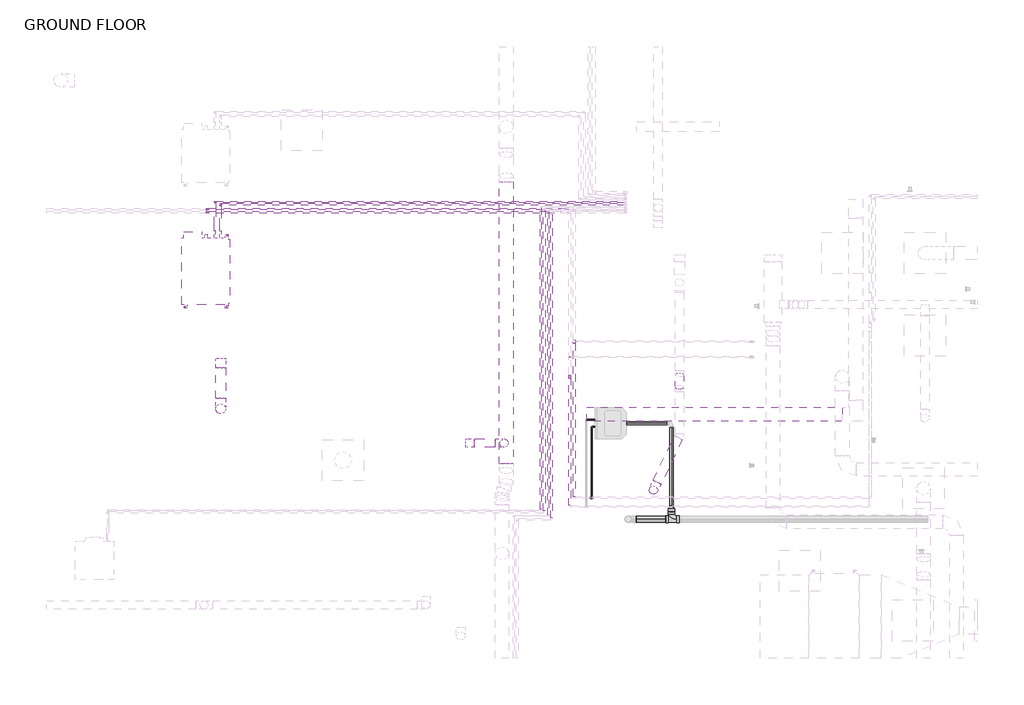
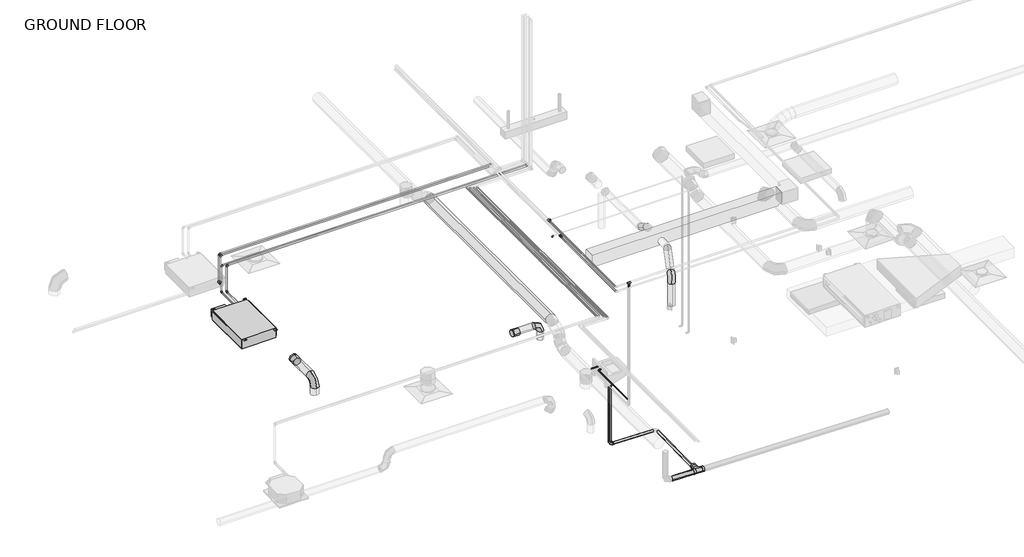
# One storey, part 12 of 21: 24 pipe segments, 22 pipe fittings, 9 duct segments, 5 duct fittings, 1 proxy.
"""IFC4 building model written with IfcOpenShell, lengths in millimetres."""

from ifc_helpers import new_model, si_unit, point, frame, frame_2d, origin, place, context, project, spatial, polyline, circle_curve, trimmed, segment, composite_curve, outline, extrude, transform, mapped, element, save
from components import mechanical_equipment_be926906, round_elbow_1_d_b37ad80b, round_elbow_1_d_c80420c1, round_takeoff_standard_d0146e83, round_takeoff_standard_272bb003, bend_pvc_sch_40_dwv_standard_4388fb5c, elbow_generic_standard_c06ac706, elbow_generic_standard_738589b0, elbow_generic_standard_a088f956, elbow_generic_standard_908d6d78, elbow_generic_standard_760b037f, reducer_pvc_sch_40_dwv_standard_deb4f40a, tee_generic_standard_d345b28c, tee_sanitary_pvc_sch_40_dwv_standard_5aefe654, transition_generic_standard_19d9bb8b, transition_generic_standard_43f54093

model = new_model("IFC4")

# Units and contexts
model_context = context("Model", 3, world=origin())
ifc_project = project(units=[si_unit("LENGTHUNIT", "METRE", prefix="MILLI")], contexts=[model_context])

# Site, building, storey
site = spatial("IfcSite", under=ifc_project)
building = spatial("IfcBuilding", under=site)
storey = spatial("IfcBuildingStorey", under=building, Name="GROUND FLOOR", Elevation=30480.0)

# Proxy
placement = place(None, origin())
mechanical_equipment_shape = mechanical_equipment_be926906(model_context)
element("IfcBuildingElementProxy", 1, Name="PEFY-P-NMSU-E_Low_Profile_Ducted : PEFY-P15NMSU-E", ObjectType="PEFY-P-NMSU-E_Low_Profile_Ducted : PEFY-P15NMSU-E", at=placement, inside=storey, context=model_context, shape_type="MappedRepresentation", body=[
    mapped(mechanical_equipment_shape, transform((-15624.8774525, 6541.2842307, 33021.6591996), x_axis=(0.0, 1.0, 0.0), y_axis=(-1.0, 0.0, 0.0), z_axis=(0.0, 0.0, 1.0))),
])

# Duct fittings
round_elbow_1_d_shape = round_elbow_1_d_b37ad80b(model_context)
element("IfcDuctFitting", 2, ObjectType="Round Elbow : 1 D", at=placement, inside=storey, context=model_context, shape_type="MappedRepresentation", body=[
    mapped(round_elbow_1_d_shape, transform((-15410.4954607, 4511.0820005, 33121.6), x_axis=(0.0, -1.0, 0.0), y_axis=(0.0, 0.0, -1.0), z_axis=(1.0, 0.0, 0.0))),
])
round_elbow_1_d_2_shape = round_elbow_1_d_c80420c1(model_context)
element("IfcDuctFitting", 3, ObjectType="Round Elbow : 1 D", at=placement, inside=storey, context=model_context, shape_type="MappedRepresentation", body=[
    mapped(round_elbow_1_d_2_shape, transform((-11225.8454607, 4001.4945005, 33121.6), x_axis=(0.0, 0.0, 1.0), y_axis=(-1.0, 0.0, 0.0), z_axis=(0.0, -1.0, 0.0))),
])
element("IfcDuctFitting", 4, ObjectType="Round Elbow : 1 D", at=placement, inside=storey, context=model_context, shape_type="MappedRepresentation", body=[
    mapped(round_elbow_1_d_2_shape, transform((-9019.2204607, 3309.3445005, 33769.3), x_axis=(0.0, 0.0, 1.0), y_axis=(0.43029426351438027, 0.9026886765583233, 0.0), z_axis=(-0.9026886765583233, 0.43029426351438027, 0.0))),
])
round_takeoff_standard_shape = round_takeoff_standard_d0146e83(model_context)
element("IfcDuctFitting", 5, ObjectType="Round Takeoff : Standard", at=placement, inside=storey, context=model_context, shape_type="MappedRepresentation", body=[
    mapped(round_takeoff_standard_shape, transform((-15410.4954607, 5220.6945005, 33121.6), x_axis=(0.0, -1.0, 0.0), y_axis=(-1.0, 0.0, 0.0), z_axis=(0.0, 0.0, -1.0))),
])
round_takeoff_standard_2_shape = round_takeoff_standard_272bb003(model_context)
element("IfcDuctFitting", 6, ObjectType="Round Takeoff : Standard", at=placement, inside=storey, context=model_context, shape_type="MappedRepresentation", body=[
    mapped(round_takeoff_standard_2_shape, transform((-11764.8513201, 4001.4945005, 33121.6), x_axis=(1.0, 0.0, 0.0), y_axis=(0.0, -1.0, 0.0), z_axis=(0.0, 0.0, -1.0))),
])

# Duct segments
element("IfcDuctSegment", 7, ObjectType="Mitered Elbows / Taps", at=placement, inside=storey, context=model_context, shape_type="SweptSolid", body=[
    extrude(outline(polyline([(-10008.1055151, 4328.5195005), (-10008.1055151, 4531.7195005), (-6233.0204015, 4531.7195005), (-6233.0204015, 4328.5195005), (-10008.1055151, 4328.5195005)])), frame((0.0, 0.0, 33680.4), z_axis=(0.0, 0.0, 1.0), x_axis=(1.0, 0.0, 0.0)), (0.0, 0.0, 1.0), 254.0),
])
element("IfcDuctSegment", 8, ObjectType="Taps / Short Radius", at=placement, inside=storey, context=model_context, shape_type="SweptSolid", body=[
    extrude(outline(composite_curve([segment(trimmed(circle_curve(frame_2d((33401.0, -11194.8892107)), 101.6), [point((33401.0, -11296.4892107))], [point((33299.4, -11194.8892107))], False, "CARTESIAN"), True, "CONTINUOUS"), segment(trimmed(circle_curve(frame_2d((33401.0, -11194.8892107)), 101.6), [point((33299.4, -11194.8892107))], [point((33401.0, -11093.2892107))], False, "CARTESIAN"), True, "CONTINUOUS"), segment(trimmed(circle_curve(frame_2d((33401.0, -11194.8892107)), 101.6), [point((33401.0, -11093.2892107))], [point((33502.6, -11194.8892107))], False, "CARTESIAN"), True, "CONTINUOUS"), segment(trimmed(circle_curve(frame_2d((33401.0, -11194.8892107)), 101.6), [point((33502.6, -11194.8892107))], [point((33401.0, -11296.4892107))], False, "CARTESIAN"), True, "CONTINUOUS")], self_intersect=False)), frame((0.0, 3698.5539502, 0.0), z_axis=(0.0, 1.0, 0.0), x_axis=(0.0, 0.0, 1.0)), (0.0, 0.0, 1.0), 4162.0088278),
])
element("IfcDuctSegment", 9, ObjectType="Taps / Short Radius", at=placement, inside=storey, context=model_context, shape_type="SweptSolid", body=[
    extrude(outline(composite_curve([segment(trimmed(circle_curve(frame_2d((-11225.8454607, 4001.4945005)), 63.5), [point((-11289.3454607, 4001.4945005))], [point((-11225.8454607, 4064.9945005))], False, "CARTESIAN"), True, "CONTINUOUS"), segment(trimmed(circle_curve(frame_2d((-11225.8454607, 4001.4945005)), 63.5), [point((-11225.8454607, 4064.9945005))], [point((-11162.3454607, 4001.4945005))], False, "CARTESIAN"), True, "CONTINUOUS"), segment(trimmed(circle_curve(frame_2d((-11225.8454607, 4001.4945005)), 63.5), [point((-11162.3454607, 4001.4945005))], [point((-11225.8454607, 3937.9945005))], False, "CARTESIAN"), True, "CONTINUOUS"), segment(trimmed(circle_curve(frame_2d((-11225.8454607, 4001.4945005)), 63.5), [point((-11225.8454607, 3937.9945005))], [point((-11289.3454607, 4001.4945005))], False, "CARTESIAN"), True, "CONTINUOUS")], self_intersect=False)), frame((0.0, 0.0, 32816.8), z_axis=(0.0, 0.0, 1.0), x_axis=(1.0, 0.0, 0.0)), (0.0, 0.0, 1.0), 177.8),
])
element("IfcDuctSegment", 10, ObjectType="Taps / Short Radius", at=placement, inside=storey, context=model_context, shape_type="SweptSolid", body=[
    extrude(outline(composite_curve([segment(trimmed(circle_curve(frame_2d((4001.4945005, 33121.6)), 63.5), [point((4064.9945005, 33121.6))], [point((4001.4945005, 33058.1))], False, "CARTESIAN"), True, "CONTINUOUS"), segment(trimmed(circle_curve(frame_2d((4001.4945005, 33121.6)), 63.5), [point((4001.4945005, 33058.1))], [point((3937.9945005, 33121.6))], False, "CARTESIAN"), True, "CONTINUOUS"), segment(trimmed(circle_curve(frame_2d((4001.4945005, 33121.6)), 63.5), [point((3937.9945005, 33121.6))], [point((4001.4945005, 33185.1))], False, "CARTESIAN"), True, "CONTINUOUS"), segment(trimmed(circle_curve(frame_2d((4001.4945005, 33121.6)), 63.5), [point((4001.4945005, 33185.1))], [point((4064.9945005, 33121.6))], False, "CARTESIAN"), True, "CONTINUOUS")], self_intersect=False)), frame((-11663.2513201, 0.0, 0.0), z_axis=(1.0, 0.0, 0.0), x_axis=(0.0, 1.0, 0.0)), (0.0, 0.0, 1.0), 310.4058594),
])
element("IfcDuctSegment", 11, ObjectType="Taps / Short Radius", at=placement, inside=storey, context=model_context, shape_type="SweptSolid", body=[
    extrude(outline(composite_curve([segment(trimmed(circle_curve(frame_2d((0.0, 63.5)), 63.5), [point((-63.5, 63.5))], [point((0.0, 127.0))], False, "CARTESIAN"), True, "CONTINUOUS"), segment(trimmed(circle_curve(frame_2d((0.0, 63.5)), 63.5), [point((0.0, 127.0))], [point((63.5, 63.5))], False, "CARTESIAN"), True, "CONTINUOUS"), segment(trimmed(circle_curve(frame_2d((0.0, 63.5)), 63.5), [point((63.5, 63.5))], [point((0.0, 0.0))], False, "CARTESIAN"), True, "CONTINUOUS"), segment(trimmed(circle_curve(frame_2d((0.0, 63.5)), 63.5), [point((0.0, 0.0))], [point((-63.5, 63.5))], False, "CARTESIAN"), True, "CONTINUOUS")], self_intersect=False)), frame((-8636.6329607, 4978.499048, 33591.6221606), z_axis=(0.0, -0.8660254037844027, 0.5000000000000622), x_axis=(1.0, 0.0, 0.0)), (0.0, 0.0, 1.0), 211.3409051),
])
element("IfcDuctSegment", 12, ObjectType="Taps / Short Radius", at=placement, inside=storey, context=model_context, shape_type="SweptSolid", body=[
    extrude(outline(composite_curve([segment(trimmed(circle_curve(frame_2d((0.0, 63.5)), 63.5), [point((63.4999999, 63.5))], [point((0.0, 0.0))], False, "CARTESIAN"), True, "CONTINUOUS"), segment(trimmed(circle_curve(frame_2d((0.0, 63.5)), 63.5), [point((0.0, 0.0))], [point((-63.5000001, 63.5))], False, "CARTESIAN"), True, "CONTINUOUS"), segment(trimmed(circle_curve(frame_2d((0.0, 63.5)), 63.5), [point((-63.5000001, 63.5))], [point((0.0, 127.0))], False, "CARTESIAN"), True, "CONTINUOUS"), segment(trimmed(circle_curve(frame_2d((0.0, 63.5)), 63.5), [point((0.0, 127.0))], [point((63.4999999, 63.5))], False, "CARTESIAN"), True, "CONTINUOUS")], self_intersect=False)), frame((-8964.5730892, 3423.9859624, 33832.8), z_axis=(0.43029426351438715, 0.90268867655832, 0.0), x_axis=(0.90268867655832, -0.43029426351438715, 0.0)), (0.0, 0.0, 1.0), 733.4087791),
])
element("IfcDuctSegment", 13, ObjectType="Taps / Short Radius", at=placement, inside=storey, context=model_context, shape_type="SweptSolid", body=[
    extrude(outline(composite_curve([segment(trimmed(circle_curve(frame_2d((-9019.2204607, 3309.3445005)), 63.5), [point((-8955.7204607, 3309.3445005))], [point((-9019.2204607, 3245.8445005))], False, "CARTESIAN"), True, "CONTINUOUS"), segment(trimmed(circle_curve(frame_2d((-9019.2204607, 3309.3445005)), 63.5), [point((-9019.2204607, 3245.8445005))], [point((-9082.7204607, 3309.3445005))], False, "CARTESIAN"), True, "CONTINUOUS"), segment(trimmed(circle_curve(frame_2d((-9019.2204607, 3309.3445005)), 63.5), [point((-9082.7204607, 3309.3445005))], [point((-9019.2204607, 3372.8445005))], False, "CARTESIAN"), True, "CONTINUOUS"), segment(trimmed(circle_curve(frame_2d((-9019.2204607, 3309.3445005)), 63.5), [point((-9019.2204607, 3372.8445005))], [point((-8955.7204607, 3309.3445005))], False, "CARTESIAN"), True, "CONTINUOUS")], self_intersect=False)), frame((0.0, 0.0, 33172.4), z_axis=(0.0, 0.0, 1.0), x_axis=(1.0, 0.0, 0.0)), (0.0, 0.0, 1.0), 469.9),
])
element("IfcDuctSegment", 14, ObjectType="Taps / Short Radius", at=placement, inside=storey, context=model_context, shape_type="SweptSolid", body=[
    extrude(outline(composite_curve([segment(trimmed(circle_curve(frame_2d((-15410.4954607, 4511.0820005)), 76.2), [point((-15486.6954607, 4511.0820005))], [point((-15410.4954607, 4587.2820005))], False, "CARTESIAN"), True, "CONTINUOUS"), segment(trimmed(circle_curve(frame_2d((-15410.4954607, 4511.0820005)), 76.2), [point((-15410.4954607, 4587.2820005))], [point((-15334.2954607, 4511.0820005))], False, "CARTESIAN"), True, "CONTINUOUS"), segment(trimmed(circle_curve(frame_2d((-15410.4954607, 4511.0820005)), 76.2), [point((-15334.2954607, 4511.0820005))], [point((-15410.4954607, 4434.8820005))], False, "CARTESIAN"), True, "CONTINUOUS"), segment(trimmed(circle_curve(frame_2d((-15410.4954607, 4511.0820005)), 76.2), [point((-15410.4954607, 4434.8820005))], [point((-15486.6954607, 4511.0820005))], False, "CARTESIAN"), True, "CONTINUOUS")], self_intersect=False)), frame((0.0, 0.0, 32816.8), z_axis=(0.0, 0.0, 1.0), x_axis=(1.0, 0.0, 0.0)), (0.0, 0.0, 1.0), 152.4),
])
element("IfcDuctSegment", 15, ObjectType="Taps / Short Radius", at=placement, inside=storey, context=model_context, shape_type="SweptSolid", body=[
    extrude(outline(composite_curve([segment(trimmed(circle_curve(frame_2d((33121.6, -15410.4954607)), 76.2), [point((33121.6, -15486.6954607))], [point((33045.4, -15410.4954607))], False, "CARTESIAN"), True, "CONTINUOUS"), segment(trimmed(circle_curve(frame_2d((33121.6, -15410.4954607)), 76.2), [point((33045.4, -15410.4954607))], [point((33121.6, -15334.2954607))], False, "CARTESIAN"), True, "CONTINUOUS"), segment(trimmed(circle_curve(frame_2d((33121.6, -15410.4954607)), 76.2), [point((33121.6, -15334.2954607))], [point((33197.8, -15410.4954607))], False, "CARTESIAN"), True, "CONTINUOUS"), segment(trimmed(circle_curve(frame_2d((33121.6, -15410.4954607)), 76.2), [point((33197.8, -15410.4954607))], [point((33121.6, -15486.6954607))], False, "CARTESIAN"), True, "CONTINUOUS")], self_intersect=False)), frame((0.0, 4663.4820005, 0.0), z_axis=(0.0, 1.0, 0.0), x_axis=(0.0, 0.0, 1.0)), (0.0, 0.0, 1.0), 455.6125),
])

# Pipe fittings
bend_pvc_sch_40_dwv_standard_shape = bend_pvc_sch_40_dwv_standard_4388fb5c(model_context)
element("IfcPipeFitting", 16, ObjectType="Bend - PVC - Sch 40 - DWV : Standard", at=placement, inside=storey, context=model_context, shape_type="MappedRepresentation", body=[
    mapped(bend_pvc_sch_40_dwv_standard_shape, transform((-9676.4454607, 4296.7695005, 29876.353125), x_axis=(0.0, 0.0, -1.0), y_axis=(1.0, 0.0, 0.0), z_axis=(0.0, -1.0, 0.0))),
])
elbow_generic_standard_shape = elbow_generic_standard_c06ac706(model_context)
element("IfcPipeFitting", 17, ObjectType="Elbow - Generic : Standard", at=placement, inside=storey, context=model_context, shape_type="MappedRepresentation", body=[
    mapped(elbow_generic_standard_shape, transform((-15415.123395, 7528.3379884, 33680.4), x_axis=(0.0, 0.0, 1.0), y_axis=(1.0, 0.0, 0.0), z_axis=(0.0, 1.0, 0.0))),
])
element("IfcPipeFitting", 18, ObjectType="Elbow - Generic : Standard", at=placement, inside=storey, context=model_context, shape_type="MappedRepresentation", body=[
    mapped(elbow_generic_standard_shape, transform((-15603.3767107, 7460.2718518, 34023.3), x_axis=(-1.0, 0.0, 0.0), y_axis=(0.0, 0.0, -1.0), z_axis=(0.0, -1.0, 0.0))),
])
element("IfcPipeFitting", 19, ObjectType="Elbow - Generic : Standard", at=placement, inside=storey, context=model_context, shape_type="MappedRepresentation", body=[
    mapped(elbow_generic_standard_shape, transform((-15603.3767107, 7460.2718518, 33436.8475147), x_axis=(0.0, 0.0, -1.0), y_axis=(-1.0, 0.0, 0.0), z_axis=(0.0, 1.0, 0.0))),
])
element("IfcPipeFitting", 20, ObjectType="Elbow - Generic : Standard", at=placement, inside=storey, context=model_context, shape_type="MappedRepresentation", body=[
    mapped(elbow_generic_standard_shape, transform((-15603.3767107, 7415.8218518, 34023.3), x_axis=(-1.0, 0.0, 0.0), y_axis=(0.0, 0.0, -1.0), z_axis=(0.0, -1.0, 0.0))),
])
element("IfcPipeFitting", 21, ObjectType="Elbow - Generic : Standard", at=placement, inside=storey, context=model_context, shape_type="MappedRepresentation", body=[
    mapped(elbow_generic_standard_shape, transform((-15603.3767107, 7415.8218518, 33436.8475147), x_axis=(0.0, 0.0, -1.0), y_axis=(-1.0, 0.0, 0.0), z_axis=(0.0, 1.0, 0.0))),
])
elbow_generic_standard_2_shape = elbow_generic_standard_738589b0(model_context)
element("IfcPipeFitting", 22, ObjectType="Elbow - Generic : Standard", at=placement, inside=storey, context=model_context, shape_type="MappedRepresentation", body=[
    mapped(elbow_generic_standard_2_shape, transform((-15498.3177546, 7567.6740548, 33680.4), x_axis=(0.0, 0.0, 1.0), y_axis=(1.0, 0.0, 0.0), z_axis=(0.0, 1.0, 0.0))),
])
elbow_generic_standard_3_shape = elbow_generic_standard_a088f956(model_context)
element("IfcPipeFitting", 23, ObjectType="Elbow - Generic : Standard", at=placement, inside=storey, context=model_context, shape_type="MappedRepresentation", body=[
    mapped(elbow_generic_standard_3_shape, transform((-10252.7079607, 5274.6695005, 33855.358114), x_axis=(0.0, 0.0, 1.0), y_axis=(1.0, 0.0, 0.0), z_axis=(0.0, 1.0, 0.0))),
])
element("IfcPipeFitting", 24, ObjectType="Elbow - Generic : Standard", at=placement, inside=storey, context=model_context, shape_type="MappedRepresentation", body=[
    mapped(elbow_generic_standard_3_shape, transform((-10009.8204607, 4347.5695005, 31546.8), x_axis=(-1.0, 0.0, 0.0), y_axis=(0.0, -1.0, 0.0), z_axis=(0.0, 0.0, 1.0))),
])
element("IfcPipeFitting", 25, ObjectType="Elbow - Generic : Standard", at=placement, inside=storey, context=model_context, shape_type="MappedRepresentation", body=[
    mapped(elbow_generic_standard_3_shape, transform((-9933.6204607, 4245.9695005, 31546.8), x_axis=(-1.0, 0.0, 0.0), y_axis=(0.0, -1.0, 0.0), z_axis=(0.0, 0.0, 1.0))),
])
element("IfcPipeFitting", 26, ObjectType="Elbow - Generic : Standard", at=placement, inside=storey, context=model_context, shape_type="MappedRepresentation", body=[
    mapped(elbow_generic_standard_3_shape, transform((-9933.6204607, 3193.0718518, 31546.8), x_axis=(0.0, 0.0, -1.0), y_axis=(0.0, 1.0, 0.0), z_axis=(1.0, 0.0, 0.0))),
])
elbow_generic_standard_4_shape = elbow_generic_standard_908d6d78(model_context)
element("IfcPipeFitting", 27, ObjectType="Elbow - Generic : Standard", at=placement, inside=storey, context=model_context, shape_type="MappedRepresentation", body=[
    mapped(elbow_generic_standard_4_shape, transform((-15498.3177546, 7567.6740548, 33121.6561098), x_axis=(0.0, 0.999999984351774, -0.00017690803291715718), y_axis=(0.0, 0.00017690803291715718, 0.999999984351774), z_axis=(1.0, 0.0, 0.0))),
])
elbow_generic_standard_5_shape = elbow_generic_standard_760b037f(model_context)
element("IfcPipeFitting", 28, ObjectType="Elbow - Generic : Standard", at=placement, inside=storey, context=model_context, shape_type="MappedRepresentation", body=[
    mapped(elbow_generic_standard_5_shape, transform((-15415.123395, 7528.3379884, 33121.5849403), x_axis=(0.0, 0.9999999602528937, -0.0002819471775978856), y_axis=(0.0, 0.0002819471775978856, 0.9999999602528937), z_axis=(1.0, 0.0, 0.0))),
])
reducer_pvc_sch_40_dwv_standard_shape = reducer_pvc_sch_40_dwv_standard_deb4f40a(model_context)
element("IfcPipeFitting", 29, ObjectType="Reducer - PVC - Sch 40 - DWV : Standard", at=placement, inside=storey, context=model_context, shape_type="MappedRepresentation", body=[
    mapped(reducer_pvc_sch_40_dwv_standard_shape, transform((-8752.529012, 2993.4173146, 29859.6242523), x_axis=(0.0, 0.9997637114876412, 0.021737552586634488), y_axis=(-0.9997831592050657, -0.00045266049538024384, 0.020818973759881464), z_axis=(0.02082389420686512, -0.02173283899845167, 0.9995469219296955))),
])
tee_generic_standard_shape = tee_generic_standard_d345b28c(model_context)
element("IfcPipeFitting", 30, ObjectType="Tee - Generic : Standard", at=placement, inside=storey, context=model_context, shape_type="MappedRepresentation", body=[
    mapped(tee_generic_standard_shape, transform((-10189.2079607, 5503.2695005, 34023.3), x_axis=(0.0, -1.0, 0.0), y_axis=(-1.0, 0.0, 0.0), z_axis=(0.0, 0.0, -1.0))),
])
element("IfcPipeFitting", 31, ObjectType="Tee - Generic : Standard", at=placement, inside=storey, context=model_context, shape_type="MappedRepresentation", body=[
    mapped(tee_generic_standard_shape, transform((-10252.7079607, 4988.9195005, 34023.3), x_axis=(0.0, -1.0, 0.0), y_axis=(0.0, 0.0, -1.0), z_axis=(1.0, 0.0, 0.0))),
])
element("IfcPipeFitting", 32, ObjectType="Tee - Generic : Standard", at=placement, inside=storey, context=model_context, shape_type="MappedRepresentation", body=[
    mapped(tee_generic_standard_shape, transform((-9933.6204607, 3193.0718518, 34023.2981384), x_axis=(1.0, 0.0, 0.0), y_axis=(0.0, 0.0, 1.0), z_axis=(0.0, -1.0, 0.0))),
])
tee_sanitary_pvc_sch_40_dwv_standard_shape = tee_sanitary_pvc_sch_40_dwv_standard_5aefe654(model_context)
element("IfcPipeFitting", 33, ObjectType="Tee Sanitary - PVC - Sch 40 - DWV : Standard", at=placement, inside=storey, context=model_context, shape_type="MappedRepresentation", body=[
    mapped(tee_sanitary_pvc_sch_40_dwv_standard_shape, transform((-8752.529012, 2877.5445005, 29857.1048657), x_axis=(-0.9997830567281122, 0.0, 0.020828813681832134), y_axis=(-0.00045266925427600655, -0.9997638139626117, -0.021728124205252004), z_axis=(0.02082389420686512, -0.02173283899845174, 0.9995469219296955))),
])
transition_generic_standard_shape = transition_generic_standard_19d9bb8b(model_context)
element("IfcPipeFitting", 34, ObjectType="Transition - Generic : Standard", at=placement, inside=storey, context=model_context, shape_type="MappedRepresentation", body=[
    mapped(transition_generic_standard_shape, transform((-10162.2204607, 5503.2695005, 34023.3), x_axis=(1.0, 0.0, 0.0), y_axis=(0.0, 1.0, 0.0), z_axis=(0.0, 0.0, 1.0))),
])
element("IfcPipeFitting", 35, ObjectType="Transition - Generic : Standard", at=placement, inside=storey, context=model_context, shape_type="MappedRepresentation", body=[
    mapped(transition_generic_standard_shape, transform((-10252.7079607, 4988.9195005, 34050.2875), x_axis=(0.0, 0.0, 1.0), y_axis=(0.0, 1.0, 0.0), z_axis=(-1.0, 0.0, 0.0))),
])
element("IfcPipeFitting", 36, ObjectType="Transition - Generic : Standard", at=placement, inside=storey, context=model_context, shape_type="MappedRepresentation", body=[
    mapped(transition_generic_standard_shape, transform((-9933.6204607, 3193.0718518, 31568.23125), x_axis=(0.0, 0.0, -1.0), y_axis=(-1.0, 0.0, 0.0), z_axis=(0.0, 1.0, 0.0))),
])
transition_generic_standard_2_shape = transition_generic_standard_43f54093(model_context)
element("IfcPipeFitting", 37, ObjectType="Transition - Generic : Standard", at=placement, inside=storey, context=model_context, shape_type="MappedRepresentation", body=[
    mapped(transition_generic_standard_2_shape, transform((-15498.3177546, 7136.5842307, 33121.6591996), x_axis=(0.0, 1.0, 0.0), y_axis=(-1.0, 0.0, 0.0), z_axis=(0.0, 0.0, 1.0))),
])

# Pipe segments
element("IfcPipeSegment", 38, ObjectType="Copper", at=placement, inside=storey, context=model_context, shape_type="SweptSolid", body=[
    extrude(outline(composite_curve([segment(trimmed(circle_curve(frame_2d((33121.6591996, -15498.3177546)), 11.1125), [point((33121.6591996, -15487.2052546))], [point((33132.7716996, -15498.3177546))], False, "CARTESIAN"), True, "CONTINUOUS"), segment(trimmed(circle_curve(frame_2d((33121.6591996, -15498.3177546)), 11.1125), [point((33132.7716996, -15498.3177546))], [point((33121.6591996, -15509.4302546))], False, "CARTESIAN"), True, "CONTINUOUS"), segment(trimmed(circle_curve(frame_2d((33121.6591996, -15498.3177546)), 11.1125), [point((33121.6591996, -15509.4302546))], [point((33110.5466996, -15498.3177546))], False, "CARTESIAN"), True, "CONTINUOUS"), segment(trimmed(circle_curve(frame_2d((33121.6591996, -15498.3177546)), 11.1125), [point((33110.5466996, -15498.3177546))], [point((33121.6591996, -15487.2052546))], False, "CARTESIAN"), True, "CONTINUOUS")], self_intersect=False)), frame((0.0, 7142.1404807, 0.0), z_axis=(0.0, 1.0, 0.0), x_axis=(0.0, 0.0, 1.0)), (0.0, 0.0, 1.0), 408.0679848),
])
element("IfcPipeSegment", 39, ObjectType="Copper", at=placement, inside=storey, context=model_context, shape_type="SweptSolid", body=[
    extrude(outline(composite_curve([segment(trimmed(circle_curve(frame_2d((7567.6740548, 33680.4)), 11.1125), [point((7556.5615548, 33680.4))], [point((7567.6740548, 33691.5125))], False, "CARTESIAN"), True, "CONTINUOUS"), segment(trimmed(circle_curve(frame_2d((7567.6740548, 33680.4)), 11.1125), [point((7567.6740548, 33691.5125))], [point((7578.7865548, 33680.4))], False, "CARTESIAN"), True, "CONTINUOUS"), segment(trimmed(circle_curve(frame_2d((7567.6740548, 33680.4)), 11.1125), [point((7578.7865548, 33680.4))], [point((7567.6740548, 33669.2875))], False, "CARTESIAN"), True, "CONTINUOUS"), segment(trimmed(circle_curve(frame_2d((7567.6740548, 33680.4)), 11.1125), [point((7567.6740548, 33669.2875))], [point((7556.5615548, 33680.4))], False, "CARTESIAN"), True, "CONTINUOUS")], self_intersect=False)), frame((-15480.8552546, 0.0, 0.0), z_axis=(1.0, 0.0, 0.0), x_axis=(0.0, 1.0, 0.0)), (0.0, 0.0, 1.0), 6033.8035439),
])
element("IfcPipeSegment", 40, ObjectType="Copper", at=placement, inside=storey, context=model_context, shape_type="SweptSolid", body=[
    extrude(outline(composite_curve([segment(trimmed(circle_curve(frame_2d((-15498.3177546, 7567.6740548)), 11.1125), [point((-15509.4302546, 7567.6740548))], [point((-15498.3177546, 7578.7865548))], False, "CARTESIAN"), True, "CONTINUOUS"), segment(trimmed(circle_curve(frame_2d((-15498.3177546, 7567.6740548)), 11.1125), [point((-15498.3177546, 7578.7865548))], [point((-15487.2052546, 7567.6740548))], False, "CARTESIAN"), True, "CONTINUOUS"), segment(trimmed(circle_curve(frame_2d((-15498.3177546, 7567.6740548)), 11.1125), [point((-15487.2052546, 7567.6740548))], [point((-15498.3177546, 7556.5615548))], False, "CARTESIAN"), True, "CONTINUOUS"), segment(trimmed(circle_curve(frame_2d((-15498.3177546, 7567.6740548)), 11.1125), [point((-15498.3177546, 7556.5615548))], [point((-15509.4302546, 7567.6740548))], False, "CARTESIAN"), True, "CONTINUOUS")], self_intersect=False)), frame((0.0, 0.0, 33139.1216994), z_axis=(0.0, 0.0, 1.0), x_axis=(1.0, 0.0, 0.0)), (0.0, 0.0, 1.0), 523.8158006),
])
element("IfcPipeSegment", 41, ObjectType="Copper", at=placement, inside=storey, context=model_context, shape_type="SweptSolid", body=[
    extrude(outline(composite_curve([segment(trimmed(circle_curve(frame_2d((33121.5907606, -15415.123395)), 14.2875), [point((33121.5907606, -15400.835895))], [point((33135.8782606, -15415.123395))], False, "CARTESIAN"), True, "CONTINUOUS"), segment(trimmed(circle_curve(frame_2d((33121.5907606, -15415.123395)), 14.2875), [point((33135.8782606, -15415.123395))], [point((33121.5907606, -15429.410895))], False, "CARTESIAN"), True, "CONTINUOUS"), segment(trimmed(circle_curve(frame_2d((33121.5907606, -15415.123395)), 14.2875), [point((33121.5907606, -15429.410895))], [point((33107.3032606, -15415.123395))], False, "CARTESIAN"), True, "CONTINUOUS"), segment(trimmed(circle_curve(frame_2d((33121.5907606, -15415.123395)), 14.2875), [point((33107.3032606, -15415.123395))], [point((33121.5907606, -15400.835895))], False, "CARTESIAN"), True, "CONTINUOUS")], self_intersect=False)), frame((0.0, 7136.5842307, 0.0), z_axis=(0.0, 1.0, 0.0), x_axis=(0.0, 0.0, 1.0)), (0.0, 0.0, 1.0), 371.110439),
])
element("IfcPipeSegment", 42, ObjectType="Copper", at=placement, inside=storey, context=model_context, shape_type="SweptSolid", body=[
    extrude(outline(composite_curve([segment(trimmed(circle_curve(frame_2d((7528.3379884, 33680.4)), 14.2875), [point((7514.0504884, 33680.4))], [point((7528.3379884, 33694.6875))], False, "CARTESIAN"), True, "CONTINUOUS"), segment(trimmed(circle_curve(frame_2d((7528.3379884, 33680.4)), 14.2875), [point((7528.3379884, 33694.6875))], [point((7542.6254884, 33680.4))], False, "CARTESIAN"), True, "CONTINUOUS"), segment(trimmed(circle_curve(frame_2d((7528.3379884, 33680.4)), 14.2875), [point((7542.6254884, 33680.4))], [point((7528.3379884, 33666.1125))], False, "CARTESIAN"), True, "CONTINUOUS"), segment(trimmed(circle_curve(frame_2d((7528.3379884, 33680.4)), 14.2875), [point((7528.3379884, 33666.1125))], [point((7514.0504884, 33680.4))], False, "CARTESIAN"), True, "CONTINUOUS")], self_intersect=False)), frame((-15394.485895, 0.0, 0.0), z_axis=(1.0, 0.0, 0.0), x_axis=(0.0, 1.0, 0.0)), (0.0, 0.0, 1.0), 5944.2591843),
])
element("IfcPipeSegment", 43, ObjectType="Copper", at=placement, inside=storey, context=model_context, shape_type="SweptSolid", body=[
    extrude(outline(composite_curve([segment(trimmed(circle_curve(frame_2d((-15415.123395, 7528.3379884)), 14.2875), [point((-15429.410895, 7528.3379884))], [point((-15415.123395, 7542.6254884))], False, "CARTESIAN"), True, "CONTINUOUS"), segment(trimmed(circle_curve(frame_2d((-15415.123395, 7528.3379884)), 14.2875), [point((-15415.123395, 7542.6254884))], [point((-15400.835895, 7528.3379884))], False, "CARTESIAN"), True, "CONTINUOUS"), segment(trimmed(circle_curve(frame_2d((-15415.123395, 7528.3379884)), 14.2875), [point((-15400.835895, 7528.3379884))], [point((-15415.123395, 7514.0504884))], False, "CARTESIAN"), True, "CONTINUOUS"), segment(trimmed(circle_curve(frame_2d((-15415.123395, 7528.3379884)), 14.2875), [point((-15415.123395, 7514.0504884))], [point((-15429.410895, 7528.3379884))], False, "CARTESIAN"), True, "CONTINUOUS")], self_intersect=False)), frame((0.0, 0.0, 33142.2282598), z_axis=(0.0, 0.0, 1.0), x_axis=(1.0, 0.0, 0.0)), (0.0, 0.0, 1.0), 517.5342402),
])
element("IfcPipeSegment", 44, ObjectType="Copper", at=placement, inside=storey, context=model_context, shape_type="SweptSolid", body=[
    extrude(outline(composite_curve([segment(trimmed(circle_curve(frame_2d((33680.4, -10682.7765455)), 7.9375), [point((33680.4, -10674.8390455))], [point((33688.3375, -10682.7765455))], False, "CARTESIAN"), True, "CONTINUOUS"), segment(trimmed(circle_curve(frame_2d((33680.4, -10682.7765455)), 7.9375), [point((33688.3375, -10682.7765455))], [point((33680.4, -10690.7140455))], False, "CARTESIAN"), True, "CONTINUOUS"), segment(trimmed(circle_curve(frame_2d((33680.4, -10682.7765455)), 7.9375), [point((33680.4, -10690.7140455))], [point((33672.4625, -10682.7765455))], False, "CARTESIAN"), True, "CONTINUOUS"), segment(trimmed(circle_curve(frame_2d((33680.4, -10682.7765455)), 7.9375), [point((33672.4625, -10682.7765455))], [point((33680.4, -10674.8390455))], False, "CARTESIAN"), True, "CONTINUOUS")], self_intersect=False)), frame((0.0, 3028.1140677, 0.0), z_axis=(0.0, 1.0, 0.0), x_axis=(0.0, 0.0, 1.0)), (0.0, 0.0, 1.0), 4452.9503543),
])
element("IfcPipeSegment", 45, ObjectType="Copper", at=placement, inside=storey, context=model_context, shape_type="SweptSolid", body=[
    extrude(outline(composite_curve([segment(trimmed(circle_curve(frame_2d((33680.4, -10635.1515455)), 14.2875), [point((33680.4, -10620.8640455))], [point((33694.6875, -10635.1515455))], False, "CARTESIAN"), True, "CONTINUOUS"), segment(trimmed(circle_curve(frame_2d((33680.4, -10635.1515455)), 14.2875), [point((33694.6875, -10635.1515455))], [point((33680.4, -10649.4390455))], False, "CARTESIAN"), True, "CONTINUOUS"), segment(trimmed(circle_curve(frame_2d((33680.4, -10635.1515455)), 14.2875), [point((33680.4, -10649.4390455))], [point((33666.1125, -10635.1515455))], False, "CARTESIAN"), True, "CONTINUOUS"), segment(trimmed(circle_curve(frame_2d((33680.4, -10635.1515455)), 14.2875), [point((33666.1125, -10635.1515455))], [point((33680.4, -10620.8640455))], False, "CARTESIAN"), True, "CONTINUOUS")], self_intersect=False)), frame((0.0, 3004.9049809, 0.0), z_axis=(0.0, 1.0, 0.0), x_axis=(0.0, 0.0, 1.0)), (0.0, 0.0, 1.0), 4440.2503543),
])
element("IfcPipeSegment", 46, ObjectType="Copper", at=placement, inside=storey, context=model_context, shape_type="SweptSolid", body=[
    extrude(outline(composite_curve([segment(trimmed(circle_curve(frame_2d((33680.4, -10572.5892107)), 7.9375), [point((33680.4, -10564.6517107))], [point((33688.3375, -10572.5892107))], False, "CARTESIAN"), True, "CONTINUOUS"), segment(trimmed(circle_curve(frame_2d((33680.4, -10572.5892107)), 7.9375), [point((33688.3375, -10572.5892107))], [point((33680.4, -10580.5267107))], False, "CARTESIAN"), True, "CONTINUOUS"), segment(trimmed(circle_curve(frame_2d((33680.4, -10572.5892107)), 7.9375), [point((33680.4, -10580.5267107))], [point((33672.4625, -10572.5892107))], False, "CARTESIAN"), True, "CONTINUOUS"), segment(trimmed(circle_curve(frame_2d((33680.4, -10572.5892107)), 7.9375), [point((33672.4625, -10572.5892107))], [point((33680.4, -10564.6517107))], False, "CARTESIAN"), True, "CONTINUOUS")], self_intersect=False)), frame((0.0, 2944.3718297, 0.0), z_axis=(0.0, 1.0, 0.0), x_axis=(0.0, 0.0, 1.0)), (0.0, 0.0, 1.0), 4479.8720779),
])
element("IfcPipeSegment", 47, ObjectType="Copper", at=placement, inside=storey, context=model_context, shape_type="SweptSolid", body=[
    extrude(outline(composite_curve([segment(trimmed(circle_curve(frame_2d((33680.4, -10524.9642107)), 14.2875), [point((33680.4, -10510.6767107))], [point((33694.6875, -10524.9642107))], False, "CARTESIAN"), True, "CONTINUOUS"), segment(trimmed(circle_curve(frame_2d((33680.4, -10524.9642107)), 14.2875), [point((33694.6875, -10524.9642107))], [point((33680.4, -10539.2517107))], False, "CARTESIAN"), True, "CONTINUOUS"), segment(trimmed(circle_curve(frame_2d((33680.4, -10524.9642107)), 14.2875), [point((33680.4, -10539.2517107))], [point((33666.1125, -10524.9642107))], False, "CARTESIAN"), True, "CONTINUOUS"), segment(trimmed(circle_curve(frame_2d((33680.4, -10524.9642107)), 14.2875), [point((33666.1125, -10524.9642107))], [point((33680.4, -10510.6767107))], False, "CARTESIAN"), True, "CONTINUOUS")], self_intersect=False)), frame((0.0, 2896.4918566, 0.0), z_axis=(0.0, 1.0, 0.0), x_axis=(0.0, 0.0, 1.0)), (0.0, 0.0, 1.0), 4492.5720779),
])
element("IfcPipeSegment", 48, ObjectType="Copper", at=placement, inside=storey, context=model_context, shape_type="SweptSolid", body=[
    extrude(outline(composite_curve([segment(trimmed(circle_curve(frame_2d((-9933.6204607, 3193.0718518)), 14.2875), [point((-9919.3329607, 3193.0718518))], [point((-9933.6204607, 3178.7843518))], False, "CARTESIAN"), True, "CONTINUOUS"), segment(trimmed(circle_curve(frame_2d((-9933.6204607, 3193.0718518)), 14.2875), [point((-9933.6204607, 3178.7843518))], [point((-9947.9079607, 3193.0718518))], False, "CARTESIAN"), True, "CONTINUOUS"), segment(trimmed(circle_curve(frame_2d((-9933.6204607, 3193.0718518)), 14.2875), [point((-9947.9079607, 3193.0718518))], [point((-9933.6204607, 3207.3593518))], False, "CARTESIAN"), True, "CONTINUOUS"), segment(trimmed(circle_curve(frame_2d((-9933.6204607, 3193.0718518)), 14.2875), [point((-9933.6204607, 3207.3593518))], [point((-9919.3329607, 3193.0718518))], False, "CARTESIAN"), True, "CONTINUOUS")], self_intersect=False)), frame((0.0, 0.0, 31568.23125), z_axis=(0.0, 0.0, 1.0), x_axis=(1.0, 0.0, 0.0)), (0.0, 0.0, 1.0), 2428.0793884),
])
element("IfcPipeSegment", 49, ObjectType="Copper", at=placement, inside=storey, context=model_context, shape_type="SweptSolid", body=[
    extrude(outline(composite_curve([segment(trimmed(circle_curve(frame_2d((34023.3, -10189.2079607)), 14.2875), [point((34023.3, -10174.9204607))], [point((34037.5875, -10189.2079607))], False, "CARTESIAN"), True, "CONTINUOUS"), segment(trimmed(circle_curve(frame_2d((34023.3, -10189.2079607)), 14.2875), [point((34037.5875, -10189.2079607))], [point((34023.3, -10203.4954607))], False, "CARTESIAN"), True, "CONTINUOUS"), segment(trimmed(circle_curve(frame_2d((34023.3, -10189.2079607)), 14.2875), [point((34023.3, -10203.4954607))], [point((34009.0125, -10189.2079607))], False, "CARTESIAN"), True, "CONTINUOUS"), segment(trimmed(circle_curve(frame_2d((34023.3, -10189.2079607)), 14.2875), [point((34009.0125, -10189.2079607))], [point((34023.3, -10174.9204607))], False, "CARTESIAN"), True, "CONTINUOUS")], self_intersect=False)), frame((0.0, 3213.7093518, 0.0), z_axis=(0.0, 1.0, 0.0), x_axis=(0.0, 0.0, 1.0)), (0.0, 0.0, 1.0), 2262.5726487),
])
element("IfcPipeSegment", 50, ObjectType="Copper", at=placement, inside=storey, context=model_context, shape_type="SweptSolid", body=[
    extrude(outline(composite_curve([segment(trimmed(circle_curve(frame_2d((34023.3, -10252.7079607)), 14.2875), [point((34023.3, -10238.4204607))], [point((34037.5875, -10252.7079607))], False, "CARTESIAN"), True, "CONTINUOUS"), segment(trimmed(circle_curve(frame_2d((34023.3, -10252.7079607)), 14.2875), [point((34037.5875, -10252.7079607))], [point((34023.3, -10266.9954607))], False, "CARTESIAN"), True, "CONTINUOUS"), segment(trimmed(circle_curve(frame_2d((34023.3, -10252.7079607)), 14.2875), [point((34023.3, -10266.9954607))], [point((34009.0125, -10252.7079607))], False, "CARTESIAN"), True, "CONTINUOUS"), segment(trimmed(circle_curve(frame_2d((34023.3, -10252.7079607)), 14.2875), [point((34009.0125, -10252.7079607))], [point((34023.3, -10238.4204607))], False, "CARTESIAN"), True, "CONTINUOUS")], self_intersect=False)), frame((0.0, 3086.7093518, 0.0), z_axis=(0.0, 1.0, 0.0), x_axis=(0.0, 0.0, 1.0)), (0.0, 0.0, 1.0), 1875.2226487),
])
element("IfcPipeSegment", 51, ObjectType="Copper", at=placement, inside=storey, context=model_context, shape_type="SweptSolid", body=[
    extrude(outline(composite_curve([segment(trimmed(circle_curve(frame_2d((7460.2718518, 34023.3)), 14.2875), [point((7474.5593518, 34023.3))], [point((7460.2718518, 34009.0125))], False, "CARTESIAN"), True, "CONTINUOUS"), segment(trimmed(circle_curve(frame_2d((7460.2718518, 34023.3)), 14.2875), [point((7460.2718518, 34009.0125))], [point((7445.9843518, 34023.3))], False, "CARTESIAN"), True, "CONTINUOUS"), segment(trimmed(circle_curve(frame_2d((7460.2718518, 34023.3)), 14.2875), [point((7445.9843518, 34023.3))], [point((7460.2718518, 34037.5875))], False, "CARTESIAN"), True, "CONTINUOUS"), segment(trimmed(circle_curve(frame_2d((7460.2718518, 34023.3)), 14.2875), [point((7460.2718518, 34037.5875))], [point((7474.5593518, 34023.3))], False, "CARTESIAN"), True, "CONTINUOUS")], self_intersect=False)), frame((-15582.7392107, 0.0, 0.0), z_axis=(1.0, 0.0, 0.0), x_axis=(0.0, 1.0, 0.0)), (0.0, 0.0, 1.0), 5372.89375),
])
element("IfcPipeSegment", 52, ObjectType="Copper", at=placement, inside=storey, context=model_context, shape_type="SweptSolid", body=[
    extrude(outline(composite_curve([segment(trimmed(circle_curve(frame_2d((7415.8218518, 34023.3)), 14.2875), [point((7430.1093518, 34023.3))], [point((7415.8218518, 34009.0125))], False, "CARTESIAN"), True, "CONTINUOUS"), segment(trimmed(circle_curve(frame_2d((7415.8218518, 34023.3)), 14.2875), [point((7415.8218518, 34009.0125))], [point((7401.5343518, 34023.3))], False, "CARTESIAN"), True, "CONTINUOUS"), segment(trimmed(circle_curve(frame_2d((7415.8218518, 34023.3)), 14.2875), [point((7401.5343518, 34023.3))], [point((7415.8218518, 34037.5875))], False, "CARTESIAN"), True, "CONTINUOUS"), segment(trimmed(circle_curve(frame_2d((7415.8218518, 34023.3)), 14.2875), [point((7415.8218518, 34037.5875))], [point((7430.1093518, 34023.3))], False, "CARTESIAN"), True, "CONTINUOUS")], self_intersect=False)), frame((-15582.7392107, 0.0, 0.0), z_axis=(1.0, 0.0, 0.0), x_axis=(0.0, 1.0, 0.0)), (0.0, 0.0, 1.0), 5309.39375),
])
element("IfcPipeSegment", 53, ObjectType="Copper", at=placement, inside=storey, context=model_context, shape_type="SweptSolid", body=[
    extrude(outline(composite_curve([segment(trimmed(circle_curve(frame_2d((-15603.3767107, 7460.2718518)), 14.2875), [point((-15589.0892107, 7460.2718518))], [point((-15603.3767107, 7445.9843518))], False, "CARTESIAN"), True, "CONTINUOUS"), segment(trimmed(circle_curve(frame_2d((-15603.3767107, 7460.2718518)), 14.2875), [point((-15603.3767107, 7445.9843518))], [point((-15617.6642107, 7460.2718518))], False, "CARTESIAN"), True, "CONTINUOUS"), segment(trimmed(circle_curve(frame_2d((-15603.3767107, 7460.2718518)), 14.2875), [point((-15617.6642107, 7460.2718518))], [point((-15603.3767107, 7474.5593518))], False, "CARTESIAN"), True, "CONTINUOUS"), segment(trimmed(circle_curve(frame_2d((-15603.3767107, 7460.2718518)), 14.2875), [point((-15603.3767107, 7474.5593518))], [point((-15589.0892107, 7460.2718518))], False, "CARTESIAN"), True, "CONTINUOUS")], self_intersect=False)), frame((0.0, 0.0, 33457.4850147), z_axis=(0.0, 0.0, 1.0), x_axis=(1.0, 0.0, 0.0)), (0.0, 0.0, 1.0), 545.1774853),
])
element("IfcPipeSegment", 54, ObjectType="Copper", at=placement, inside=storey, context=model_context, shape_type="SweptSolid", body=[
    extrude(outline(composite_curve([segment(trimmed(circle_curve(frame_2d((-15603.3767107, 7415.8218518)), 14.2875), [point((-15589.0892107, 7415.8218518))], [point((-15603.3767107, 7401.5343518))], False, "CARTESIAN"), True, "CONTINUOUS"), segment(trimmed(circle_curve(frame_2d((-15603.3767107, 7415.8218518)), 14.2875), [point((-15603.3767107, 7401.5343518))], [point((-15617.6642107, 7415.8218518))], False, "CARTESIAN"), True, "CONTINUOUS"), segment(trimmed(circle_curve(frame_2d((-15603.3767107, 7415.8218518)), 14.2875), [point((-15617.6642107, 7415.8218518))], [point((-15603.3767107, 7430.1093518))], False, "CARTESIAN"), True, "CONTINUOUS"), segment(trimmed(circle_curve(frame_2d((-15603.3767107, 7415.8218518)), 14.2875), [point((-15603.3767107, 7430.1093518))], [point((-15589.0892107, 7415.8218518))], False, "CARTESIAN"), True, "CONTINUOUS")], self_intersect=False)), frame((0.0, 0.0, 33457.4850147), z_axis=(0.0, 0.0, 1.0), x_axis=(1.0, 0.0, 0.0)), (0.0, 0.0, 1.0), 545.1774853),
])
element("IfcPipeSegment", 55, ObjectType="Copper", at=placement, inside=storey, context=model_context, shape_type="SweptSolid", body=[
    extrude(outline(composite_curve([segment(trimmed(circle_curve(frame_2d((4347.5695005, 31546.8)), 7.9375), [point((4355.5070005, 31546.8))], [point((4347.5695005, 31538.8625))], False, "CARTESIAN"), True, "CONTINUOUS"), segment(trimmed(circle_curve(frame_2d((4347.5695005, 31546.8)), 7.9375), [point((4347.5695005, 31538.8625))], [point((4339.6320005, 31546.8))], False, "CARTESIAN"), True, "CONTINUOUS"), segment(trimmed(circle_curve(frame_2d((4347.5695005, 31546.8)), 7.9375), [point((4339.6320005, 31546.8))], [point((4347.5695005, 31554.7375))], False, "CARTESIAN"), True, "CONTINUOUS"), segment(trimmed(circle_curve(frame_2d((4347.5695005, 31546.8)), 7.9375), [point((4347.5695005, 31554.7375))], [point((4355.5070005, 31546.8))], False, "CARTESIAN"), True, "CONTINUOUS")], self_intersect=False)), frame((-9995.5329607, 0.0, 0.0), z_axis=(1.0, 0.0, 0.0), x_axis=(0.0, 1.0, 0.0)), (0.0, 0.0, 1.0), 115.8875),
])
element("IfcPipeSegment", 56, ObjectType="Copper", at=placement, inside=storey, context=model_context, shape_type="SweptSolid", body=[
    extrude(outline(composite_curve([segment(trimmed(circle_curve(frame_2d((4245.9695005, 31546.8)), 7.9375), [point((4253.9070005, 31546.8))], [point((4245.9695005, 31538.8625))], False, "CARTESIAN"), True, "CONTINUOUS"), segment(trimmed(circle_curve(frame_2d((4245.9695005, 31546.8)), 7.9375), [point((4245.9695005, 31538.8625))], [point((4238.0320005, 31546.8))], False, "CARTESIAN"), True, "CONTINUOUS"), segment(trimmed(circle_curve(frame_2d((4245.9695005, 31546.8)), 7.9375), [point((4238.0320005, 31546.8))], [point((4245.9695005, 31554.7375))], False, "CARTESIAN"), True, "CONTINUOUS"), segment(trimmed(circle_curve(frame_2d((4245.9695005, 31546.8)), 7.9375), [point((4245.9695005, 31554.7375))], [point((4253.9070005, 31546.8))], False, "CARTESIAN"), True, "CONTINUOUS")], self_intersect=False)), frame((-9919.3329607, 0.0, 0.0), z_axis=(1.0, 0.0, 0.0), x_axis=(0.0, 1.0, 0.0)), (0.0, 0.0, 1.0), 39.6875),
])
element("IfcPipeSegment", 57, ObjectType="Copper", at=placement, inside=storey, context=model_context, shape_type="SweptSolid", body=[
    extrude(outline(composite_curve([segment(trimmed(circle_curve(frame_2d((31546.8, -9933.6204607)), 7.9375), [point((31546.8, -9941.5579607))], [point((31538.8625, -9933.6204607))], False, "CARTESIAN"), True, "CONTINUOUS"), segment(trimmed(circle_curve(frame_2d((31546.8, -9933.6204607)), 7.9375), [point((31538.8625, -9933.6204607))], [point((31546.8, -9925.6829607))], False, "CARTESIAN"), True, "CONTINUOUS"), segment(trimmed(circle_curve(frame_2d((31546.8, -9933.6204607)), 7.9375), [point((31546.8, -9925.6829607))], [point((31554.7375, -9933.6204607))], False, "CARTESIAN"), True, "CONTINUOUS"), segment(trimmed(circle_curve(frame_2d((31546.8, -9933.6204607)), 7.9375), [point((31554.7375, -9933.6204607))], [point((31546.8, -9941.5579607))], False, "CARTESIAN"), True, "CONTINUOUS")], self_intersect=False)), frame((0.0, 3207.3593518, 0.0), z_axis=(0.0, 1.0, 0.0), x_axis=(0.0, 0.0, 1.0)), (0.0, 0.0, 1.0), 1024.3226487),
])
element("IfcPipeSegment", 58, ObjectType="PVC - DWV", at=placement, inside=storey, context=model_context, shape_type="SweptSolid", body=[
    extrude(outline(composite_curve([segment(trimmed(circle_curve(frame_2d((0.0, -24.209375)), 24.209375), [point((0.0, -48.41875))], [point((-24.2093751, -24.209375))], False, "CARTESIAN"), True, "CONTINUOUS"), segment(trimmed(circle_curve(frame_2d((0.0, -24.209375)), 24.209375), [point((-24.2093751, -24.209375))], [point((0.0, 0.0))], False, "CARTESIAN"), True, "CONTINUOUS"), segment(trimmed(circle_curve(frame_2d((0.0, -24.209375)), 24.209375), [point((0.0, 0.0))], [point((24.209375, -24.209375))], False, "CARTESIAN"), True, "CONTINUOUS"), segment(trimmed(circle_curve(frame_2d((0.0, -24.209375)), 24.209375), [point((24.209375, -24.209375))], [point((0.0, -48.41875))], False, "CARTESIAN"), True, "CONTINUOUS")], self_intersect=False)), frame((-8814.4153832, 4320.9788755, 29858.3941651), z_axis=(-0.9997830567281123, 0.0, 0.02082881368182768), x_axis=(0.02082881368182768, 0.0, 0.9997830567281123)), (0.0, 0.0, 1.0), 800.3173297),
])
element("IfcPipeSegment", 59, ObjectType="PVC - DWV", at=placement, inside=storey, context=model_context, shape_type="SweptSolid", body=[
    extrude(outline(composite_curve([segment(trimmed(circle_curve(frame_2d((-9676.4454607, 4296.7695005)), 24.209375), [point((-9652.2360857, 4296.7695005))], [point((-9676.4454607, 4272.5601255))], False, "CARTESIAN"), True, "CONTINUOUS"), segment(trimmed(circle_curve(frame_2d((-9676.4454607, 4296.7695005)), 24.209375), [point((-9676.4454607, 4272.5601255))], [point((-9700.6548357, 4296.7695005))], False, "CARTESIAN"), True, "CONTINUOUS"), segment(trimmed(circle_curve(frame_2d((-9676.4454607, 4296.7695005)), 24.209375), [point((-9700.6548357, 4296.7695005))], [point((-9676.4454607, 4320.9788755))], False, "CARTESIAN"), True, "CONTINUOUS"), segment(trimmed(circle_curve(frame_2d((-9676.4454607, 4296.7695005)), 24.209375), [point((-9676.4454607, 4320.9788755))], [point((-9652.2360857, 4296.7695005))], False, "CARTESIAN"), True, "CONTINUOUS")], self_intersect=False)), frame((0.0, 0.0, 29938.252925), z_axis=(0.0, 0.0, 1.0), x_axis=(1.0, 0.0, 0.0)), (0.0, 0.0, 1.0), 1341.847075),
])
element("IfcPipeSegment", 60, ObjectType="PVC - DWV", at=placement, inside=storey, context=model_context, shape_type="SweptSolid", body=[
    extrude(outline(composite_curve([segment(trimmed(circle_curve(frame_2d((0.0, 24.209375)), 24.209375), [point((24.209375, 24.209375))], [point((0.0, 0.0))], False, "CARTESIAN"), True, "CONTINUOUS"), segment(trimmed(circle_curve(frame_2d((0.0, 24.209375)), 24.209375), [point((0.0, 0.0))], [point((-24.209375, 24.209375))], False, "CARTESIAN"), True, "CONTINUOUS"), segment(trimmed(circle_curve(frame_2d((0.0, 24.209375)), 24.209375), [point((-24.209375, 24.209375))], [point((0.0, 48.41875))], False, "CARTESIAN"), True, "CONTINUOUS"), segment(trimmed(circle_curve(frame_2d((0.0, 24.209375)), 24.209375), [point((0.0, 48.41875))], [point((24.209375, 24.209375))], False, "CARTESIAN"), True, "CONTINUOUS")], self_intersect=False)), frame((-8752.529012, 3076.8793843, 29854.7962696), z_axis=(0.0, 0.9997637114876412, 0.021737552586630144), x_axis=(1.0, 0.0, 0.0)), (0.0, 0.0, 1.0), 1157.7522534),
])
element("IfcPipeSegment", 61, ObjectType="PVC - DWV", at=placement, inside=storey, context=model_context, shape_type="SweptSolid", body=[
    extrude(outline(composite_curve([segment(trimmed(circle_curve(frame_2d((0.0, -44.45)), 44.45), [point((0.0, -88.9))], [point((-44.45, -44.45))], False, "CARTESIAN"), True, "CONTINUOUS"), segment(trimmed(circle_curve(frame_2d((0.0, -44.45)), 44.45), [point((-44.45, -44.45))], [point((0.0, 0.0))], False, "CARTESIAN"), True, "CONTINUOUS"), segment(trimmed(circle_curve(frame_2d((0.0, -44.45)), 44.45), [point((0.0, 0.0))], [point((44.45, -44.45))], False, "CARTESIAN"), True, "CONTINUOUS"), segment(trimmed(circle_curve(frame_2d((0.0, -44.45)), 44.45), [point((44.45, -44.45))], [point((0.0, -88.9))], False, "CARTESIAN"), True, "CONTINUOUS")], self_intersect=False)), frame((-8840.911654, 2921.9945005, 29858.9461707), z_axis=(-0.9997830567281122, 0.0, 0.02082881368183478), x_axis=(0.02082881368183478, 0.0, 0.9997830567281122)), (0.0, 0.0, 1.0), 434.0029045),
])

save(model, "model.ifc")
